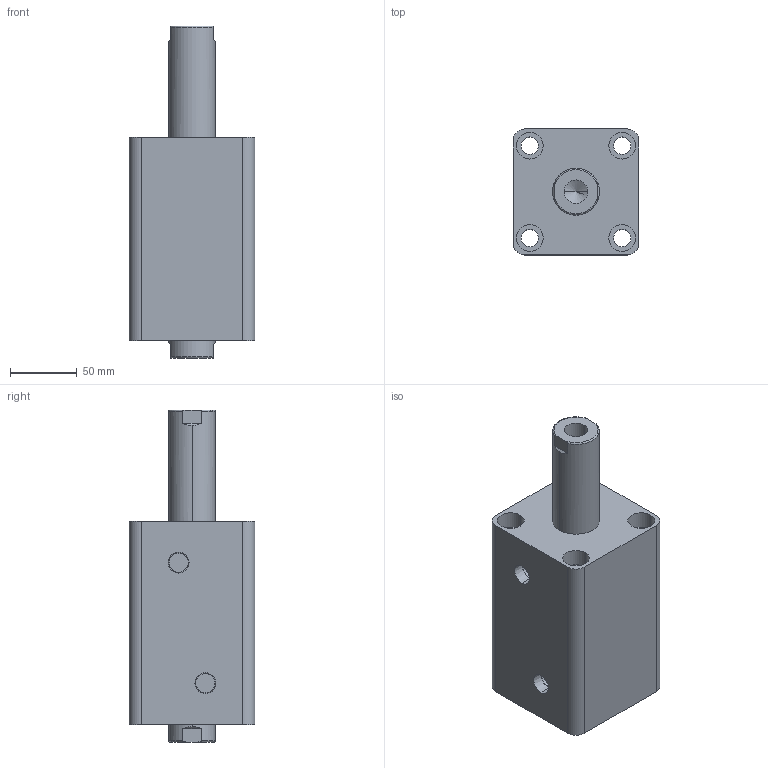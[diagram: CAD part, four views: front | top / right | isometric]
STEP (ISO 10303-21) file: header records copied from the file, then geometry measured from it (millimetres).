
FILE_DESCRIPTION (( 'STEP AP203' ), '1' );
FILE_NAME ('HTB-SW63-70N.STEP', '2019-10-07T10:07:11', ( '微软用户' ), ( '微软中国' ), 'SwSTEP 2.0', 'SolidWorks 2012', '' );
FILE_SCHEMA (( 'CONFIG_CONTROL_DESIGN' ));
Length unit declared in the file: millimetre
Products named in the file (3): HTB-SW63-70N; HTB-SW63-70N活塞杆; HTB-SW63-70掛极
Assembly tree (2 placements, depth 2):
  HTB-SW63-70N
    HTB-SW63-70掛极
    HTB-SW63-70N活塞杆
Bounding box: 94 x 94 x 248 mm (x, y, z)
Volume: 1159630.8 mm3; surface area: 163518.8 mm2
Topology: 2 solids, 2 shells, 100 faces, 228 edges, 146 vertices
Faces by surface type: cylinder 48, plane 32, torus 12, cone 8
Entity records: 3253 total; most frequent: CARTESIAN_POINT 611, DIRECTION 542, ORIENTED_EDGE 448, AXIS2_PLACEMENT_3D 229, EDGE_CURVE 224, VERTEX_POINT 146, EDGE_LOOP 128, CIRCLE 124
